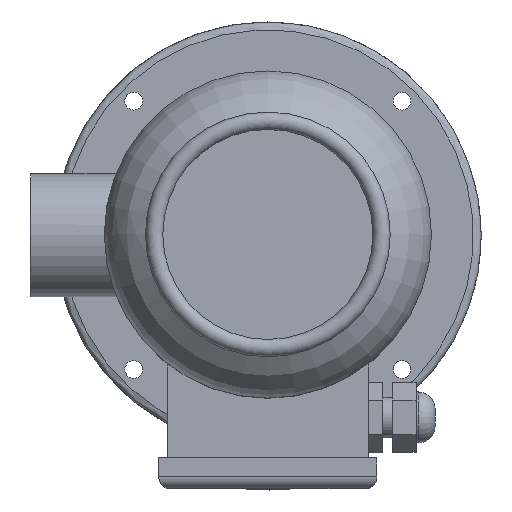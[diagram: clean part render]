
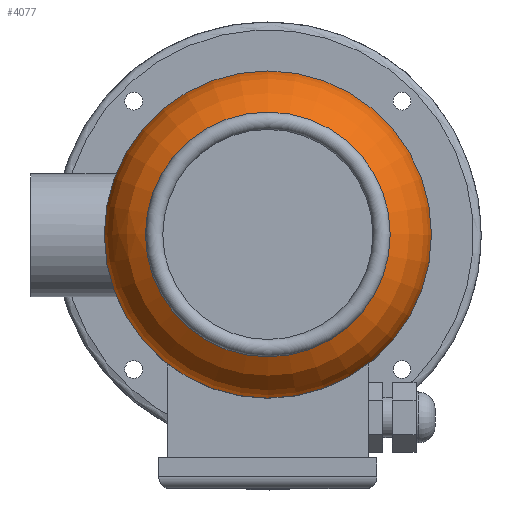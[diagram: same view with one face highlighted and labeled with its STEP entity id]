
A CAD part, top view. The second image highlights one B-rep face of the part: STEP entity #4077.
In plain terms, the highlighted toroidal (fillet/blend) face has major radius 37.539 mm and minor radius 32 mm.
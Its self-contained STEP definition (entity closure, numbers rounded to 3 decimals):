
#108=TOROIDAL_SURFACE('',#4384,37.539,32.);
#2081=ORIENTED_EDGE('',*,*,#2633,.T.);
#2082=ORIENTED_EDGE('',*,*,#2631,.F.);
#2631=EDGE_CURVE('',#3020,#3020,#3132,.T.);
#2633=EDGE_CURVE('',#3022,#3022,#3134,.T.);
#3020=VERTEX_POINT('',#9443);
#3022=VERTEX_POINT('',#9449);
#3132=CIRCLE('',#4379,68.997);
#3134=CIRCLE('',#4383,51.3);
#3479=EDGE_LOOP('',(#2081));
#3480=EDGE_LOOP('',(#2082));
#3825=FACE_BOUND('',#3479,.T.);
#3826=FACE_BOUND('',#3480,.T.);
#4077=ADVANCED_FACE('',(#3825,#3826),#108,.T.);
#4379=AXIS2_PLACEMENT_3D('',#9442,#5246,#5247);
#4383=AXIS2_PLACEMENT_3D('',#9448,#5254,#5255);
#4384=AXIS2_PLACEMENT_3D('',#9450,#5256,#5257);
#5246=DIRECTION('',(0.,0.,-1.));
#5247=DIRECTION('',(-1.,0.,0.));
#5254=DIRECTION('',(0.,0.,-1.));
#5255=DIRECTION('',(-1.,0.,0.));
#5256=DIRECTION('',(0.,0.,-1.));
#5257=DIRECTION('',(-1.,0.,0.));
#9442=CARTESIAN_POINT('',(0.,0.,355.558));
#9443=CARTESIAN_POINT('',(-68.997,0.,355.558));
#9448=CARTESIAN_POINT('',(0.,0.,378.586));
#9449=CARTESIAN_POINT('',(-51.3,0.,378.586));
#9450=CARTESIAN_POINT('',(0.,0.,349.696));
